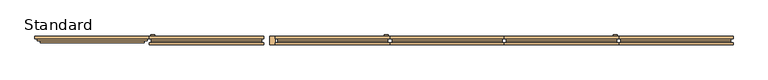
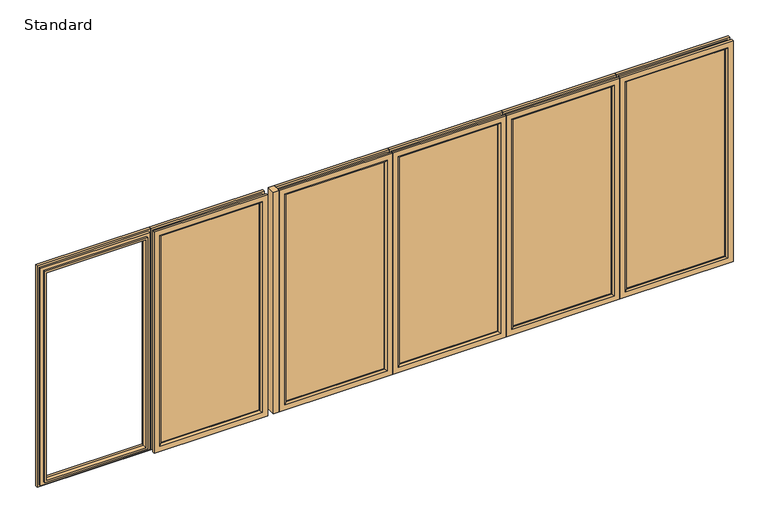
"""IFC4 building model written with IfcOpenShell, lengths in millimetres: door geometry, SMARTS_Visofold1000 : Standard."""

from ifc_helpers import new_model, si_unit, point, frame, frame_2d, origin, origin_with_axes, place, context, project, spatial, polyline, circle_curve, ellipse_curve, trimmed, segment, composite_curve, outline, extrude, faceted_brep, source, transform, mapped, element, save
from ifc_brep_helpers import plane_surface, cylinder_surface, advanced_brep


def standard_0c698cfe(model_context):
    return source(origin(), model_context, "Body", "SolidModel", [
        extrude(outline(composite_curve([segment(polyline([(1228.0996413, 4.0), (1040.0996413, 4.0)]), True, "CONTINUOUS"), segment(trimmed(circle_curve(frame_2d((1040.0996413, 20.0)), 16.0), [point((1040.0996413, 4.0))], [point((1040.0996413, 36.0))], False, "CARTESIAN"), True, "CONTINUOUS"), segment(polyline([(1040.0996413, 36.0), (1228.0996413, 36.0)]), True, "CONTINUOUS"), segment(trimmed(circle_curve(frame_2d((1228.0996413, 20.0)), 16.0), [point((1228.0996413, 36.0))], [point((1228.0996413, 4.0))], False, "CARTESIAN"), True, "CONTINUOUS")], self_intersect=False)), frame((0.0, 75.0, 0.0), z_axis=(0.0, 1.0, 0.0), x_axis=(0.0, 0.0, 1.0)), (0.0, 0.0, 1.0), 10.0),
        extrude(outline(polyline([(45.0, 5.0), (1955.0, 5.0), (1955.0, -875.0), (45.0, -875.0), (45.0, 5.0)]), holes=[polyline([(1939.5, -10.5), (60.5, -10.5), (60.5, -859.5), (1939.5, -859.5), (1939.5, -10.5)])]), frame((0.0, 17.4, 0.0), z_axis=(0.0, 1.0, 0.0), x_axis=(0.0, 0.0, 1.0)), (0.0, 0.0, 1.0), 35.0),
        faceted_brep([(50.0, 74.4, 0.0), (50.0, 74.4, 2000.0), (50.0, 52.4, 2000.0), (50.0, 52.4, 0.0), (-10.5, 52.4, 60.5), (-10.5, 52.4, 1939.5), (-10.5, 74.4, 1939.5), (-10.5, 74.4, 60.5), (-920.0, 74.4, 2000.0), (-920.0, 52.4, 2000.0), (-859.5, 52.4, 1939.5), (-859.5, 74.4, 1939.5), (-920.0, 74.4, 0.0), (-920.0, 52.4, 0.0), (-859.5, 52.4, 60.5), (-859.5, 74.4, 60.5), (32.1308519, 34.8, 17.8691481), (32.1308519, 34.8, 1982.1308519), (-902.1308519, 34.8, 1982.1308519), (-902.1308519, 34.8, 17.8691481), (5.0, 34.8, 1955.0), (5.0, 34.8, 45.0), (-875.0, 34.8, 45.0), (-875.0, 34.8, 1955.0), (32.1308519, 52.4, 17.8691481), (32.1308519, 52.4, 1982.1308519), (5.0, 52.4, 1955.0), (5.0, 52.4, 45.0), (-902.1308519, 52.4, 1982.1308519), (-875.0, 52.4, 1955.0), (-902.1308519, 52.4, 17.8691481), (-875.0, 52.4, 45.0)], [[[0, 1, 2, 3]], [[4, 5, 6, 7]], [[1, 8, 9, 2]], [[5, 10, 11, 6]], [[8, 12, 13, 9]], [[10, 14, 15, 11]], [[12, 0, 3, 13]], [[1, 0, 12, 8], [7, 6, 11, 15]], [[14, 4, 7, 15]], [[16, 17, 18, 19], [20, 21, 22, 23]], [[24, 25, 17, 16]], [[21, 20, 26, 27]], [[25, 28, 18, 17]], [[20, 23, 29, 26]], [[28, 30, 19, 18]], [[23, 22, 31, 29]], [[30, 24, 16, 19]], [[3, 2, 9, 13], [25, 24, 30, 28]], [[27, 26, 29, 31], [5, 4, 14, 10]], [[22, 21, 27, 31]]]),
        advanced_brep(
        [(-10.5, 13.3, 60.5), (-10.5, 13.3, 1939.5), (-10.5, 17.4, 1939.5), (-10.5, 17.4, 60.5), (50.0, 17.4, 0.0), (50.0, 17.4, 2000.0), (50.0, 0.0, 2000.0), (50.0, 0.0, 0.0), (-859.5, 13.3, 1939.5), (-859.5, 17.4, 1939.5), (-920.0, 17.4, 2000.0), (-920.0, 0.0, 2000.0), (-859.5, 13.3, 60.5), (-859.5, 17.4, 60.5), (-920.0, 17.4, 0.0), (-920.0, 0.0, 0.0), (2.8, 0.0, 1952.8), (2.8, 0.0, 47.2), (-872.8, 0.0, 47.2), (-872.8, 0.0, 1952.8), (32.1308519, 34.8, 17.8691481), (32.1308519, 34.8, 1982.1308519), (32.1308519, 17.4, 1982.1308519), (32.1308519, 17.4, 17.8691481), (-902.1308519, 34.8, 1982.1308519), (-902.1308519, 17.4, 1982.1308519), (-902.1308519, 34.8, 17.8691481), (-902.1308519, 17.4, 17.8691481), (5.0, 17.4, 45.0), (5.0, 17.4, 1955.0), (5.0, 34.8, 1955.0), (5.0, 34.8, 45.0), (-875.0, 17.4, 1955.0), (-875.0, 34.8, 1955.0), (-875.0, 17.4, 45.0), (-875.0, 34.8, 45.0)],
        [
            (0, 1),
            (1, 2),
            (2, 3),
            (3, 0),
            (4, 5),
            (5, 6),
            (6, 7),
            (7, 4),
            (1, 8),
            (8, 9),
            (9, 2),
            (5, 10),
            (10, 11),
            (11, 6),
            (8, 12),
            (12, 13),
            (13, 9),
            (10, 14),
            (14, 15),
            (15, 11),
            (12, 0),
            (3, 13),
            (15, 7),
            (16, 17),
            (17, 18),
            (18, 19),
            (19, 16),
            (14, 4),
            (16, 1, ellipse_curve(frame((2.8, 13.3, 1952.8), z_axis=(0.7071067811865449, 0.0, -0.70710678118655), x_axis=(-0.7071067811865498, 0.0, -0.7071067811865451)), 18.8090404, 13.3)),
            (0, 17, ellipse_curve(frame((2.8, 13.3, 47.2), z_axis=(0.70710678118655, 0.0, 0.7071067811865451), x_axis=(0.7071067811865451, 0.0, -0.7071067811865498)), 18.8090404, 13.3)),
            (19, 8, ellipse_curve(frame((-872.8, 13.3, 1952.8), z_axis=(0.7071067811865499, 0.0, 0.707106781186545), x_axis=(0.7071067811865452, 0.0, -0.7071067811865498)), 18.8090404, 13.3)),
            (18, 12, ellipse_curve(frame((-872.8, 13.3, 47.2), z_axis=(-0.7071067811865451, 0.0, 0.7071067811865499), x_axis=(0.7071067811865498, 0.0, 0.7071067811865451)), 18.8090404, 13.3)),
            (20, 21),
            (21, 22),
            (22, 23),
            (23, 20),
            (21, 24),
            (24, 25),
            (25, 22),
            (24, 26),
            (26, 27),
            (27, 25),
            (27, 23),
            (26, 20),
            (28, 29),
            (29, 30),
            (30, 31),
            (31, 28),
            (29, 32),
            (32, 33),
            (33, 30),
            (32, 34),
            (34, 35),
            (35, 33),
            (34, 28),
            (31, 35),
        ],
        [
            plane_surface(frame((-10.5, 17.4, 60.5), z_axis=(-1.0, 0.0, 0.0), x_axis=(0.0, 0.0, 1.0))),
            plane_surface(frame((50.0, 0.0, 0.0), z_axis=(1.0, 0.0, 0.0), x_axis=(0.0, 0.0, 1.0))),
            plane_surface(frame((-10.5, 17.4, 1939.5), z_axis=(0.0, 0.0, -1.0), x_axis=(-1.0, 0.0, 0.0))),
            plane_surface(frame((50.0, 0.0, 2000.0), z_axis=(0.0, 0.0, 1.0), x_axis=(-1.0, 0.0, 0.0))),
            plane_surface(frame((-859.5, 17.4, 1939.5), z_axis=(1.0, 0.0, 0.0), x_axis=(0.0, 0.0, -1.0))),
            plane_surface(frame((-920.0, 0.0, 2000.0), z_axis=(-1.0, 0.0, 0.0), x_axis=(0.0, 0.0, -1.0))),
            plane_surface(frame((-859.5, 17.4, 60.5), z_axis=(0.0, 0.0, 1.0), x_axis=(1.0, 0.0, 0.0))),
            plane_surface(frame((-872.8, 0.0, 47.2), z_axis=(0.0, -1.0, 0.0), x_axis=(1.0, 0.0, 0.0))),
            plane_surface(frame((-920.0, 0.0, 0.0), z_axis=(0.0, 0.0, -1.0), x_axis=(1.0, 0.0, 0.0))),
            cylinder_surface(frame((2.8, 13.3, 0.0), z_axis=(0.0, 0.0, -1.0), x_axis=(0.0, 1.0, 0.0)), 13.3),
            cylinder_surface(frame((50.0, 13.3, 1952.8), z_axis=(1.0, 0.0, 0.0), x_axis=(0.0, 1.0, 0.0)), 13.3),
            cylinder_surface(frame((-872.8, 13.3, 2000.0), z_axis=(0.0, 0.0, 1.0), x_axis=(0.0, 1.0, 0.0)), 13.3),
            cylinder_surface(frame((-920.0, 13.3, 47.2), z_axis=(-1.0, 0.0, 0.0), x_axis=(0.0, 1.0, 0.0)), 13.3),
            plane_surface(frame((32.1308519, 17.4, 17.8691481), z_axis=(1.0, 0.0, 0.0), x_axis=(0.0, 0.0, 1.0))),
            plane_surface(frame((32.1308519, 17.4, 1982.1308519), z_axis=(0.0, 0.0, 1.0), x_axis=(-1.0, 0.0, 0.0))),
            plane_surface(frame((-902.1308519, 17.4, 1982.1308519), z_axis=(-1.0, 0.0, 0.0), x_axis=(0.0, 0.0, -1.0))),
            plane_surface(frame((-920.0, 17.4, 0.0), z_axis=(0.0, 1.0, 0.0), x_axis=(1.0, 0.0, 0.0))),
            plane_surface(frame((-902.1308519, 17.4, 17.8691481), z_axis=(0.0, 0.0, -1.0), x_axis=(1.0, 0.0, 0.0))),
            plane_surface(frame((5.0, 34.8, 45.0), z_axis=(-1.0, 0.0, 0.0), x_axis=(0.0, 0.0, 1.0))),
            plane_surface(frame((5.0, 34.8, 1955.0), z_axis=(0.0, 0.0, -1.0), x_axis=(-1.0, 0.0, 0.0))),
            plane_surface(frame((-875.0, 34.8, 1955.0), z_axis=(1.0, 0.0, 0.0), x_axis=(0.0, 0.0, -1.0))),
            plane_surface(frame((-875.0, 34.8, 45.0), z_axis=(0.0, 0.0, 1.0), x_axis=(1.0, 0.0, 0.0))),
            plane_surface(frame((-875.0, 17.4, 45.0), z_axis=(0.0, 1.0, 0.0), x_axis=(1.0, 0.0, 0.0))),
            plane_surface(frame((-902.1308519, 34.8, 17.8691481), z_axis=(0.0, 1.0, 0.0), x_axis=(1.0, 0.0, 0.0))),
        ],
        [
            (0, [[1, 2, 3, 4]]),
            (1, [[5, 6, 7, 8]]),
            (2, [[9, 10, 11, -2]]),
            (3, [[12, 13, 14, -6]]),
            (4, [[15, 16, 17, -10]]),
            (5, [[18, 19, 20, -13]]),
            (6, [[21, -4, 22, -16]]),
            (7, [[-7, -14, -20, 23], [24, 25, 26, 27]]),
            (8, [[28, -8, -23, -19]]),
            (9, [[-24, 29, -1, 30]]),
            (10, [[-27, 31, -9, -29]]),
            (11, [[-26, 32, -15, -31]]),
            (12, [[-25, -30, -21, -32]]),
            (13, [[33, 34, 35, 36]]),
            (14, [[37, 38, 39, -34]]),
            (15, [[40, 41, 42, -38]]),
            (16, [[-5, -28, -18, -12], [-35, -39, -42, 43]]),
            (17, [[44, -36, -43, -41]]),
            (18, [[45, 46, 47, 48]]),
            (19, [[49, 50, 51, -46]]),
            (20, [[52, 53, 54, -50]]),
            (21, [[55, -48, 56, -53]]),
            (22, [[-45, -55, -52, -49], [-3, -11, -17, -22]]),
            (23, [[-33, -44, -40, -37], [-47, -51, -54, -56]]),
        ],
    ),
        extrude(outline(polyline([(-10.5, 50.1484783), (-10.5, 21.4), (-859.5, 21.4), (-859.5, 50.1484783), (-10.5, 50.1484783)])), frame((0.0, 0.0, 60.5), z_axis=(0.0, 0.0, 1.0), x_axis=(1.0, 0.0, 0.0)), (0.0, 0.0, 1.0), 1879.0),
        extrude(outline(composite_curve([segment(polyline([(1228.0996413, 1944.0), (1040.0996413, 1944.0)]), True, "CONTINUOUS"), segment(trimmed(circle_curve(frame_2d((1040.0996413, 1960.0)), 16.0), [point((1040.0996413, 1944.0))], [point((1040.0996413, 1976.0))], False, "CARTESIAN"), True, "CONTINUOUS"), segment(polyline([(1040.0996413, 1976.0), (1228.0996413, 1976.0)]), True, "CONTINUOUS"), segment(trimmed(circle_curve(frame_2d((1228.0996413, 1960.0)), 16.0), [point((1228.0996413, 1976.0))], [point((1228.0996413, 1944.0))], False, "CARTESIAN"), True, "CONTINUOUS")], self_intersect=False)), frame((0.0, 75.0, 0.0), z_axis=(0.0, 1.0, 0.0), x_axis=(0.0, 0.0, 1.0)), (0.0, 0.0, 1.0), 10.0),
        extrude(outline(polyline([(45.0, 1945.0), (1955.0, 1945.0), (1955.0, 1065.0), (45.0, 1065.0), (45.0, 1945.0)]), holes=[polyline([(1939.5, 1929.5), (60.5, 1929.5), (60.5, 1080.5), (1939.5, 1080.5), (1939.5, 1929.5)])]), frame((0.0, 17.4, 0.0), z_axis=(0.0, 1.0, 0.0), x_axis=(0.0, 0.0, 1.0)), (0.0, 0.0, 1.0), 35.0),
        faceted_brep([(1990.0, 74.4, 0.0), (1990.0, 74.4, 2000.0), (1990.0, 52.4, 2000.0), (1990.0, 52.4, 0.0), (1929.5, 52.4, 60.5), (1929.5, 52.4, 1939.5), (1929.5, 74.4, 1939.5), (1929.5, 74.4, 60.5), (1020.0, 74.4, 2000.0), (1020.0, 52.4, 2000.0), (1080.5, 52.4, 1939.5), (1080.5, 74.4, 1939.5), (1020.0, 74.4, 0.0), (1020.0, 52.4, 0.0), (1080.5, 52.4, 60.5), (1080.5, 74.4, 60.5), (1972.1308519, 34.8, 17.8691481), (1972.1308519, 34.8, 1982.1308519), (1037.8691481, 34.8, 1982.1308519), (1037.8691481, 34.8, 17.8691481), (1945.0, 34.8, 1955.0), (1945.0, 34.8, 45.0), (1065.0, 34.8, 45.0), (1065.0, 34.8, 1955.0), (1972.1308519, 52.4, 17.8691481), (1972.1308519, 52.4, 1982.1308519), (1945.0, 52.4, 1955.0), (1945.0, 52.4, 45.0), (1037.8691481, 52.4, 1982.1308519), (1065.0, 52.4, 1955.0), (1037.8691481, 52.4, 17.8691481), (1065.0, 52.4, 45.0)], [[[0, 1, 2, 3]], [[4, 5, 6, 7]], [[1, 8, 9, 2]], [[5, 10, 11, 6]], [[8, 12, 13, 9]], [[10, 14, 15, 11]], [[12, 0, 3, 13]], [[1, 0, 12, 8], [7, 6, 11, 15]], [[14, 4, 7, 15]], [[16, 17, 18, 19], [20, 21, 22, 23]], [[24, 25, 17, 16]], [[21, 20, 26, 27]], [[25, 28, 18, 17]], [[20, 23, 29, 26]], [[28, 30, 19, 18]], [[23, 22, 31, 29]], [[30, 24, 16, 19]], [[3, 2, 9, 13], [25, 24, 30, 28]], [[27, 26, 29, 31], [5, 4, 14, 10]], [[22, 21, 27, 31]]]),
        advanced_brep(
        [(1929.5, 13.3, 60.5), (1929.5, 13.3, 1939.5), (1929.5, 17.4, 1939.5), (1929.5, 17.4, 60.5), (1990.0, 17.4, 0.0), (1990.0, 17.4, 2000.0), (1990.0, 0.0, 2000.0), (1990.0, 0.0, 0.0), (1080.5, 13.3, 1939.5), (1080.5, 17.4, 1939.5), (1020.0, 17.4, 2000.0), (1020.0, 0.0, 2000.0), (1080.5, 13.3, 60.5), (1080.5, 17.4, 60.5), (1020.0, 17.4, 0.0), (1020.0, 0.0, 0.0), (1942.8, 0.0, 1952.8), (1942.8, 0.0, 47.2), (1067.2, 0.0, 47.2), (1067.2, 0.0, 1952.8), (1972.1308519, 34.8, 17.8691481), (1972.1308519, 34.8, 1982.1308519), (1972.1308519, 17.4, 1982.1308519), (1972.1308519, 17.4, 17.8691481), (1037.8691481, 34.8, 1982.1308519), (1037.8691481, 17.4, 1982.1308519), (1037.8691481, 34.8, 17.8691481), (1037.8691481, 17.4, 17.8691481), (1945.0, 17.4, 45.0), (1945.0, 17.4, 1955.0), (1945.0, 34.8, 1955.0), (1945.0, 34.8, 45.0), (1065.0, 17.4, 1955.0), (1065.0, 34.8, 1955.0), (1065.0, 17.4, 45.0), (1065.0, 34.8, 45.0)],
        [
            (0, 1),
            (1, 2),
            (2, 3),
            (3, 0),
            (4, 5),
            (5, 6),
            (6, 7),
            (7, 4),
            (1, 8),
            (8, 9),
            (9, 2),
            (5, 10),
            (10, 11),
            (11, 6),
            (8, 12),
            (12, 13),
            (13, 9),
            (10, 14),
            (14, 15),
            (15, 11),
            (12, 0),
            (3, 13),
            (15, 7),
            (16, 17),
            (17, 18),
            (18, 19),
            (19, 16),
            (14, 4),
            (16, 1, ellipse_curve(frame((1942.8, 13.3, 1952.8), z_axis=(0.7071067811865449, 0.0, -0.70710678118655), x_axis=(-0.7071067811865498, 0.0, -0.7071067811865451)), 18.8090404, 13.3)),
            (0, 17, ellipse_curve(frame((1942.8, 13.3, 47.2), z_axis=(0.70710678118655, 0.0, 0.7071067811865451), x_axis=(0.7071067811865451, 0.0, -0.7071067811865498)), 18.8090404, 13.3)),
            (19, 8, ellipse_curve(frame((1067.2, 13.3, 1952.8), z_axis=(0.7071067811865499, 0.0, 0.707106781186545), x_axis=(0.7071067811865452, 0.0, -0.7071067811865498)), 18.8090404, 13.3)),
            (18, 12, ellipse_curve(frame((1067.2, 13.3, 47.2), z_axis=(-0.7071067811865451, 0.0, 0.7071067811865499), x_axis=(0.7071067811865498, 0.0, 0.7071067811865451)), 18.8090404, 13.3)),
            (20, 21),
            (21, 22),
            (22, 23),
            (23, 20),
            (21, 24),
            (24, 25),
            (25, 22),
            (24, 26),
            (26, 27),
            (27, 25),
            (27, 23),
            (26, 20),
            (28, 29),
            (29, 30),
            (30, 31),
            (31, 28),
            (29, 32),
            (32, 33),
            (33, 30),
            (32, 34),
            (34, 35),
            (35, 33),
            (34, 28),
            (31, 35),
        ],
        [
            plane_surface(frame((1929.5, 17.4, 60.5), z_axis=(-1.0, 0.0, 0.0), x_axis=(0.0, 0.0, 1.0))),
            plane_surface(frame((1990.0, 0.0, 0.0), z_axis=(1.0, 0.0, 0.0), x_axis=(0.0, 0.0, 1.0))),
            plane_surface(frame((1929.5, 17.4, 1939.5), z_axis=(0.0, 0.0, -1.0), x_axis=(-1.0, 0.0, 0.0))),
            plane_surface(frame((1990.0, 0.0, 2000.0), z_axis=(0.0, 0.0, 1.0), x_axis=(-1.0, 0.0, 0.0))),
            plane_surface(frame((1080.5, 17.4, 1939.5), z_axis=(1.0, 0.0, 0.0), x_axis=(0.0, 0.0, -1.0))),
            plane_surface(frame((1020.0, 0.0, 2000.0), z_axis=(-1.0, 0.0, 0.0), x_axis=(0.0, 0.0, -1.0))),
            plane_surface(frame((1080.5, 17.4, 60.5), z_axis=(0.0, 0.0, 1.0), x_axis=(1.0, 0.0, 0.0))),
            plane_surface(frame((1067.2, 0.0, 47.2), z_axis=(0.0, -1.0, 0.0), x_axis=(1.0, 0.0, 0.0))),
            plane_surface(frame((1020.0, 0.0, 0.0), z_axis=(0.0, 0.0, -1.0), x_axis=(1.0, 0.0, 0.0))),
            cylinder_surface(frame((1942.8, 13.3, 0.0), z_axis=(0.0, 0.0, -1.0), x_axis=(0.0, 1.0, 0.0)), 13.3),
            cylinder_surface(frame((1990.0, 13.3, 1952.8), z_axis=(1.0, 0.0, 0.0), x_axis=(0.0, 1.0, 0.0)), 13.3),
            cylinder_surface(frame((1067.2, 13.3, 2000.0), z_axis=(0.0, 0.0, 1.0), x_axis=(0.0, 1.0, 0.0)), 13.3),
            cylinder_surface(frame((1020.0, 13.3, 47.2), z_axis=(-1.0, 0.0, 0.0), x_axis=(0.0, 1.0, 0.0)), 13.3),
            plane_surface(frame((1972.1308519, 17.4, 17.8691481), z_axis=(1.0, 0.0, 0.0), x_axis=(0.0, 0.0, 1.0))),
            plane_surface(frame((1972.1308519, 17.4, 1982.1308519), z_axis=(0.0, 0.0, 1.0), x_axis=(-1.0, 0.0, 0.0))),
            plane_surface(frame((1037.8691481, 17.4, 1982.1308519), z_axis=(-1.0, 0.0, 0.0), x_axis=(0.0, 0.0, -1.0))),
            plane_surface(frame((1020.0, 17.4, 0.0), z_axis=(0.0, 1.0, 0.0), x_axis=(1.0, 0.0, 0.0))),
            plane_surface(frame((1037.8691481, 17.4, 17.8691481), z_axis=(0.0, 0.0, -1.0), x_axis=(1.0, 0.0, 0.0))),
            plane_surface(frame((1945.0, 34.8, 45.0), z_axis=(-1.0, 0.0, 0.0), x_axis=(0.0, 0.0, 1.0))),
            plane_surface(frame((1945.0, 34.8, 1955.0), z_axis=(0.0, 0.0, -1.0), x_axis=(-1.0, 0.0, 0.0))),
            plane_surface(frame((1065.0, 34.8, 1955.0), z_axis=(1.0, 0.0, 0.0), x_axis=(0.0, 0.0, -1.0))),
            plane_surface(frame((1065.0, 34.8, 45.0), z_axis=(0.0, 0.0, 1.0), x_axis=(1.0, 0.0, 0.0))),
            plane_surface(frame((1065.0, 17.4, 45.0), z_axis=(0.0, 1.0, 0.0), x_axis=(1.0, 0.0, 0.0))),
            plane_surface(frame((1037.8691481, 34.8, 17.8691481), z_axis=(0.0, 1.0, 0.0), x_axis=(1.0, 0.0, 0.0))),
        ],
        [
            (0, [[1, 2, 3, 4]]),
            (1, [[5, 6, 7, 8]]),
            (2, [[9, 10, 11, -2]]),
            (3, [[12, 13, 14, -6]]),
            (4, [[15, 16, 17, -10]]),
            (5, [[18, 19, 20, -13]]),
            (6, [[21, -4, 22, -16]]),
            (7, [[-7, -14, -20, 23], [24, 25, 26, 27]]),
            (8, [[28, -8, -23, -19]]),
            (9, [[-24, 29, -1, 30]]),
            (10, [[-27, 31, -9, -29]]),
            (11, [[-26, 32, -15, -31]]),
            (12, [[-25, -30, -21, -32]]),
            (13, [[33, 34, 35, 36]]),
            (14, [[37, 38, 39, -34]]),
            (15, [[40, 41, 42, -38]]),
            (16, [[-5, -28, -18, -12], [-35, -39, -42, 43]]),
            (17, [[44, -36, -43, -41]]),
            (18, [[45, 46, 47, 48]]),
            (19, [[49, 50, 51, -46]]),
            (20, [[52, 53, 54, -50]]),
            (21, [[55, -48, 56, -53]]),
            (22, [[-45, -55, -52, -49], [-3, -11, -17, -22]]),
            (23, [[-33, -44, -40, -37], [-47, -51, -54, -56]]),
        ],
    ),
        extrude(outline(polyline([(1929.5, 50.1484783), (1929.5, 21.4), (1080.5, 21.4), (1080.5, 50.1484783), (1929.5, 50.1484783)])), frame((0.0, 0.0, 60.5), z_axis=(0.0, 0.0, 1.0), x_axis=(1.0, 0.0, 0.0)), (0.0, 0.0, 1.0), 1879.0),
        extrude(outline(polyline([(45.0, 95.0), (45.0, 975.0), (1955.0, 975.0), (1955.0, 95.0), (45.0, 95.0)]), holes=[polyline([(1939.5, 110.5), (1939.5, 959.5), (60.5, 959.5), (60.5, 110.5), (1939.5, 110.5)])]), frame((0.0, 17.4, 0.0), z_axis=(0.0, 1.0, 0.0), x_axis=(0.0, 0.0, 1.0)), (0.0, 0.0, 1.0), 35.0),
        faceted_brep([(50.0, 74.4, 0.0), (50.0, 52.4, 0.0), (50.0, 52.4, 2000.0), (50.0, 74.4, 2000.0), (110.5, 52.4, 60.5), (110.5, 74.4, 60.5), (110.5, 74.4, 1939.5), (110.5, 52.4, 1939.5), (1020.0, 52.4, 2000.0), (1020.0, 74.4, 2000.0), (959.5, 74.4, 1939.5), (959.5, 52.4, 1939.5), (1020.0, 52.4, 0.0), (1020.0, 74.4, 0.0), (959.5, 74.4, 60.5), (959.5, 52.4, 60.5), (67.8691481, 34.8, 17.8691481), (1002.1308519, 34.8, 17.8691481), (1002.1308519, 34.8, 1982.1308519), (67.8691481, 34.8, 1982.1308519), (95.0, 34.8, 1955.0), (975.0, 34.8, 1955.0), (975.0, 34.8, 45.0), (95.0, 34.8, 45.0), (67.8691481, 52.4, 17.8691481), (67.8691481, 52.4, 1982.1308519), (95.0, 52.4, 45.0), (95.0, 52.4, 1955.0), (1002.1308519, 52.4, 1982.1308519), (975.0, 52.4, 1955.0), (1002.1308519, 52.4, 17.8691481), (975.0, 52.4, 45.0)], [[[0, 1, 2, 3]], [[4, 5, 6, 7]], [[3, 2, 8, 9]], [[7, 6, 10, 11]], [[9, 8, 12, 13]], [[11, 10, 14, 15]], [[13, 12, 1, 0]], [[3, 9, 13, 0], [5, 14, 10, 6]], [[15, 14, 5, 4]], [[16, 17, 18, 19], [20, 21, 22, 23]], [[24, 16, 19, 25]], [[23, 26, 27, 20]], [[25, 19, 18, 28]], [[20, 27, 29, 21]], [[28, 18, 17, 30]], [[21, 29, 31, 22]], [[30, 17, 16, 24]], [[1, 12, 8, 2], [25, 28, 30, 24]], [[26, 31, 29, 27], [7, 11, 15, 4]], [[22, 31, 26, 23]]]),
        advanced_brep(
        [(110.5, 13.3, 60.5), (110.5, 17.4, 60.5), (110.5, 17.4, 1939.5), (110.5, 13.3, 1939.5), (50.0, 17.4, 0.0), (50.0, 0.0, 0.0), (50.0, 0.0, 2000.0), (50.0, 17.4, 2000.0), (959.5, 17.4, 1939.5), (959.5, 13.3, 1939.5), (1020.0, 0.0, 2000.0), (1020.0, 17.4, 2000.0), (959.5, 17.4, 60.5), (959.5, 13.3, 60.5), (1020.0, 0.0, 0.0), (1020.0, 17.4, 0.0), (97.2, 0.0, 1952.8), (972.8, 0.0, 1952.8), (972.8, 0.0, 47.2), (97.2, 0.0, 47.2), (67.8691481, 34.8, 17.8691481), (67.8691481, 17.4, 17.8691481), (67.8691481, 17.4, 1982.1308519), (67.8691481, 34.8, 1982.1308519), (1002.1308519, 17.4, 1982.1308519), (1002.1308519, 34.8, 1982.1308519), (1002.1308519, 17.4, 17.8691481), (1002.1308519, 34.8, 17.8691481), (95.0, 17.4, 45.0), (95.0, 34.8, 45.0), (95.0, 34.8, 1955.0), (95.0, 17.4, 1955.0), (975.0, 34.8, 1955.0), (975.0, 17.4, 1955.0), (975.0, 34.8, 45.0), (975.0, 17.4, 45.0)],
        [
            (0, 1),
            (1, 2),
            (2, 3),
            (3, 0),
            (4, 5),
            (5, 6),
            (6, 7),
            (7, 4),
            (2, 8),
            (8, 9),
            (9, 3),
            (6, 10),
            (10, 11),
            (11, 7),
            (8, 12),
            (12, 13),
            (13, 9),
            (10, 14),
            (14, 15),
            (15, 11),
            (12, 1),
            (0, 13),
            (5, 14),
            (16, 17),
            (17, 18),
            (18, 19),
            (19, 16),
            (4, 15),
            (19, 0, ellipse_curve(frame((97.2, 13.3, 47.2), z_axis=(-0.70710678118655, 0.0, 0.7071067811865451), x_axis=(-0.7071067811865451, 0.0, -0.7071067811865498)), 18.8090404, 13.3)),
            (3, 16, ellipse_curve(frame((97.2, 13.3, 1952.8), z_axis=(-0.7071067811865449, 0.0, -0.70710678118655), x_axis=(0.7071067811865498, 0.0, -0.7071067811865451)), 18.8090404, 13.3)),
            (9, 17, ellipse_curve(frame((972.8, 13.3, 1952.8), z_axis=(-0.7071067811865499, 0.0, 0.707106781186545), x_axis=(-0.7071067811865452, 0.0, -0.7071067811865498)), 18.8090404, 13.3)),
            (13, 18, ellipse_curve(frame((972.8, 13.3, 47.2), z_axis=(0.7071067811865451, 0.0, 0.7071067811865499), x_axis=(-0.7071067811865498, 0.0, 0.7071067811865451)), 18.8090404, 13.3)),
            (20, 21),
            (21, 22),
            (22, 23),
            (23, 20),
            (22, 24),
            (24, 25),
            (25, 23),
            (24, 26),
            (26, 27),
            (27, 25),
            (21, 26),
            (20, 27),
            (28, 29),
            (29, 30),
            (30, 31),
            (31, 28),
            (30, 32),
            (32, 33),
            (33, 31),
            (32, 34),
            (34, 35),
            (35, 33),
            (34, 29),
            (28, 35),
        ],
        [
            plane_surface(frame((110.5, 17.4, 60.5), z_axis=(1.0, 0.0, 0.0), x_axis=(0.0, 0.0, 1.0))),
            plane_surface(frame((50.0, 0.0, 0.0), z_axis=(-1.0, 0.0, 0.0), x_axis=(0.0, 0.0, 1.0))),
            plane_surface(frame((110.5, 17.4, 1939.5), z_axis=(0.0, 0.0, -1.0), x_axis=(1.0, 0.0, 0.0))),
            plane_surface(frame((50.0, 0.0, 2000.0), z_axis=(0.0, 0.0, 1.0), x_axis=(1.0, 0.0, 0.0))),
            plane_surface(frame((959.5, 17.4, 1939.5), z_axis=(-1.0, 0.0, 0.0), x_axis=(0.0, 0.0, -1.0))),
            plane_surface(frame((1020.0, 0.0, 2000.0), z_axis=(1.0, 0.0, 0.0), x_axis=(0.0, 0.0, -1.0))),
            plane_surface(frame((959.5, 17.4, 60.5), z_axis=(0.0, 0.0, 1.0), x_axis=(-1.0, 0.0, 0.0))),
            plane_surface(frame((972.8, 0.0, 47.2), z_axis=(0.0, -1.0, 0.0), x_axis=(-1.0, 0.0, 0.0))),
            plane_surface(frame((1020.0, 0.0, 0.0), z_axis=(0.0, 0.0, -1.0), x_axis=(-1.0, 0.0, 0.0))),
            cylinder_surface(frame((97.2, 13.3, 0.0), z_axis=(0.0, 0.0, -1.0), x_axis=(0.0, 1.0, 0.0)), 13.3),
            cylinder_surface(frame((50.0, 13.3, 1952.8), z_axis=(-1.0, 0.0, 0.0), x_axis=(0.0, 1.0, 0.0)), 13.3),
            cylinder_surface(frame((972.8, 13.3, 2000.0), z_axis=(0.0, 0.0, 1.0), x_axis=(0.0, 1.0, 0.0)), 13.3),
            cylinder_surface(frame((1020.0, 13.3, 47.2), z_axis=(1.0, 0.0, 0.0), x_axis=(0.0, 1.0, 0.0)), 13.3),
            plane_surface(frame((67.8691481, 17.4, 17.8691481), z_axis=(-1.0, 0.0, 0.0), x_axis=(0.0, 0.0, 1.0))),
            plane_surface(frame((67.8691481, 17.4, 1982.1308519), z_axis=(0.0, 0.0, 1.0), x_axis=(1.0, 0.0, 0.0))),
            plane_surface(frame((1002.1308519, 17.4, 1982.1308519), z_axis=(1.0, 0.0, 0.0), x_axis=(0.0, 0.0, -1.0))),
            plane_surface(frame((1020.0, 17.4, 0.0), z_axis=(0.0, 1.0, 0.0), x_axis=(-1.0, 0.0, 0.0))),
            plane_surface(frame((1002.1308519, 17.4, 17.8691481), z_axis=(0.0, 0.0, -1.0), x_axis=(-1.0, 0.0, 0.0))),
            plane_surface(frame((95.0, 34.8, 45.0), z_axis=(1.0, 0.0, 0.0), x_axis=(0.0, 0.0, 1.0))),
            plane_surface(frame((95.0, 34.8, 1955.0), z_axis=(0.0, 0.0, -1.0), x_axis=(1.0, 0.0, 0.0))),
            plane_surface(frame((975.0, 34.8, 1955.0), z_axis=(-1.0, 0.0, 0.0), x_axis=(0.0, 0.0, -1.0))),
            plane_surface(frame((975.0, 34.8, 45.0), z_axis=(0.0, 0.0, 1.0), x_axis=(-1.0, 0.0, 0.0))),
            plane_surface(frame((975.0, 17.4, 45.0), z_axis=(0.0, 1.0, 0.0), x_axis=(-1.0, 0.0, 0.0))),
            plane_surface(frame((1002.1308519, 34.8, 17.8691481), z_axis=(0.0, 1.0, 0.0), x_axis=(-1.0, 0.0, 0.0))),
        ],
        [
            (0, [[1, 2, 3, 4]]),
            (1, [[5, 6, 7, 8]]),
            (2, [[-3, 9, 10, 11]]),
            (3, [[-7, 12, 13, 14]]),
            (4, [[-10, 15, 16, 17]]),
            (5, [[-13, 18, 19, 20]]),
            (6, [[-16, 21, -1, 22]]),
            (7, [[23, -18, -12, -6], [24, 25, 26, 27]]),
            (8, [[-19, -23, -5, 28]]),
            (9, [[29, -4, 30, -27]]),
            (10, [[-30, -11, 31, -24]]),
            (11, [[-31, -17, 32, -25]]),
            (12, [[-32, -22, -29, -26]]),
            (13, [[33, 34, 35, 36]]),
            (14, [[-35, 37, 38, 39]]),
            (15, [[-38, 40, 41, 42]]),
            (16, [[-14, -20, -28, -8], [43, -40, -37, -34]]),
            (17, [[-41, -43, -33, 44]]),
            (18, [[45, 46, 47, 48]]),
            (19, [[-47, 49, 50, 51]]),
            (20, [[-50, 52, 53, 54]]),
            (21, [[-53, 55, -45, 56]]),
            (22, [[-51, -54, -56, -48], [-21, -15, -9, -2]]),
            (23, [[-39, -42, -44, -36], [-55, -52, -49, -46]]),
        ],
    ),
        extrude(outline(polyline([(110.5, 50.1484783), (959.5, 50.1484783), (959.5, 21.4), (110.5, 21.4), (110.5, 50.1484783)])), frame((0.0, 0.0, 60.5), z_axis=(0.0, 0.0, 1.0), x_axis=(1.0, 0.0, 0.0)), (0.0, 0.0, 1.0), 1879.0),
        extrude(outline(polyline([(45.0, 2035.0), (45.0, 2915.0), (1955.0, 2915.0), (1955.0, 2035.0), (45.0, 2035.0)]), holes=[polyline([(1939.5, 2050.5), (1939.5, 2899.5), (60.5, 2899.5), (60.5, 2050.5), (1939.5, 2050.5)])]), frame((0.0, 17.4, 0.0), z_axis=(0.0, 1.0, 0.0), x_axis=(0.0, 0.0, 1.0)), (0.0, 0.0, 1.0), 35.0),
        faceted_brep([(1990.0, 74.4, 0.0), (1990.0, 52.4, 0.0), (1990.0, 52.4, 2000.0), (1990.0, 74.4, 2000.0), (2050.5, 52.4, 60.5), (2050.5, 74.4, 60.5), (2050.5, 74.4, 1939.5), (2050.5, 52.4, 1939.5), (2960.0, 74.4, 0.0), (2960.0, 52.4, 0.0), (2960.0, 52.4, 2000.0), (2960.0, 74.4, 2000.0), (2899.5, 74.4, 1939.5), (2899.5, 52.4, 1939.5), (2899.5, 74.4, 60.5), (2899.5, 52.4, 60.5), (2007.8691481, 34.8, 17.8691481), (2942.1308519, 34.8, 17.8691481), (2942.1308519, 34.8, 1982.1308519), (2007.8691481, 34.8, 1982.1308519), (2035.0, 34.8, 1955.0), (2915.0, 34.8, 1955.0), (2915.0, 34.8, 45.0), (2035.0, 34.8, 45.0), (2007.8691481, 52.4, 17.8691481), (2007.8691481, 52.4, 1982.1308519), (2035.0, 52.4, 45.0), (2035.0, 52.4, 1955.0), (2942.1308519, 52.4, 1982.1308519), (2915.0, 52.4, 1955.0), (2942.1308519, 52.4, 17.8691481), (2915.0, 52.4, 45.0)], [[[0, 1, 2, 3]], [[4, 5, 6, 7]], [[8, 9, 1, 0]], [[3, 2, 10, 11]], [[7, 6, 12, 13]], [[11, 10, 9, 8]], [[13, 12, 14, 15]], [[3, 11, 8, 0], [5, 14, 12, 6]], [[15, 14, 5, 4]], [[16, 17, 18, 19], [20, 21, 22, 23]], [[24, 16, 19, 25]], [[23, 26, 27, 20]], [[25, 19, 18, 28]], [[20, 27, 29, 21]], [[28, 18, 17, 30]], [[21, 29, 31, 22]], [[30, 17, 16, 24]], [[1, 9, 10, 2], [25, 28, 30, 24]], [[26, 31, 29, 27], [7, 13, 15, 4]], [[22, 31, 26, 23]]]),
        advanced_brep(
        [(2050.5, 13.3, 60.5), (2050.5, 17.4, 60.5), (2050.5, 17.4, 1939.5), (2050.5, 13.3, 1939.5), (1990.0, 17.4, 0.0), (1990.0, 0.0, 0.0), (1990.0, 0.0, 2000.0), (1990.0, 17.4, 2000.0), (2899.5, 17.4, 1939.5), (2899.5, 13.3, 1939.5), (2960.0, 0.0, 2000.0), (2960.0, 17.4, 2000.0), (2899.5, 17.4, 60.5), (2899.5, 13.3, 60.5), (2960.0, 0.0, 0.0), (2960.0, 17.4, 0.0), (2037.2, 0.0, 1952.8), (2912.8, 0.0, 1952.8), (2912.8, 0.0, 47.2), (2037.2, 0.0, 47.2), (2007.8691481, 34.8, 17.8691481), (2007.8691481, 17.4, 17.8691481), (2007.8691481, 17.4, 1982.1308519), (2007.8691481, 34.8, 1982.1308519), (2942.1308519, 17.4, 1982.1308519), (2942.1308519, 34.8, 1982.1308519), (2942.1308519, 17.4, 17.8691481), (2942.1308519, 34.8, 17.8691481), (2035.0, 17.4, 45.0), (2035.0, 34.8, 45.0), (2035.0, 34.8, 1955.0), (2035.0, 17.4, 1955.0), (2915.0, 34.8, 1955.0), (2915.0, 17.4, 1955.0), (2915.0, 34.8, 45.0), (2915.0, 17.4, 45.0)],
        [
            (0, 1),
            (1, 2),
            (2, 3),
            (3, 0),
            (4, 5),
            (5, 6),
            (6, 7),
            (7, 4),
            (2, 8),
            (8, 9),
            (9, 3),
            (6, 10),
            (10, 11),
            (11, 7),
            (8, 12),
            (12, 13),
            (13, 9),
            (10, 14),
            (14, 15),
            (15, 11),
            (12, 1),
            (0, 13),
            (5, 14),
            (16, 17),
            (17, 18),
            (18, 19),
            (19, 16),
            (4, 15),
            (19, 0, ellipse_curve(frame((2037.2, 13.3, 47.2), z_axis=(-0.70710678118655, 0.0, 0.7071067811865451), x_axis=(-0.7071067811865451, 0.0, -0.7071067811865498)), 18.8090404, 13.3)),
            (3, 16, ellipse_curve(frame((2037.2, 13.3, 1952.8), z_axis=(-0.7071067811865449, 0.0, -0.70710678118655), x_axis=(0.7071067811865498, 0.0, -0.7071067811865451)), 18.8090404, 13.3)),
            (9, 17, ellipse_curve(frame((2912.8, 13.3, 1952.8), z_axis=(-0.7071067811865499, 0.0, 0.707106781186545), x_axis=(-0.7071067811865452, 0.0, -0.7071067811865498)), 18.8090404, 13.3)),
            (13, 18, ellipse_curve(frame((2912.8, 13.3, 47.2), z_axis=(0.7071067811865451, 0.0, 0.7071067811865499), x_axis=(-0.7071067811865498, 0.0, 0.7071067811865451)), 18.8090404, 13.3)),
            (20, 21),
            (21, 22),
            (22, 23),
            (23, 20),
            (22, 24),
            (24, 25),
            (25, 23),
            (24, 26),
            (26, 27),
            (27, 25),
            (21, 26),
            (20, 27),
            (28, 29),
            (29, 30),
            (30, 31),
            (31, 28),
            (30, 32),
            (32, 33),
            (33, 31),
            (32, 34),
            (34, 35),
            (35, 33),
            (34, 29),
            (28, 35),
        ],
        [
            plane_surface(frame((2050.5, 17.4, 60.5), z_axis=(1.0, 0.0, 0.0), x_axis=(0.0, 0.0, 1.0))),
            plane_surface(frame((1990.0, 0.0, 0.0), z_axis=(-1.0, 0.0, 0.0), x_axis=(0.0, 0.0, 1.0))),
            plane_surface(frame((2050.5, 17.4, 1939.5), z_axis=(0.0, 0.0, -1.0), x_axis=(1.0, 0.0, 0.0))),
            plane_surface(frame((1990.0, 0.0, 2000.0), z_axis=(0.0, 0.0, 1.0), x_axis=(1.0, 0.0, 0.0))),
            plane_surface(frame((2899.5, 17.4, 1939.5), z_axis=(-1.0, 0.0, 0.0), x_axis=(0.0, 0.0, -1.0))),
            plane_surface(frame((2960.0, 0.0, 2000.0), z_axis=(1.0, 0.0, 0.0), x_axis=(0.0, 0.0, -1.0))),
            plane_surface(frame((2899.5, 17.4, 60.5), z_axis=(0.0, 0.0, 1.0), x_axis=(-1.0, 0.0, 0.0))),
            plane_surface(frame((2912.8, 0.0, 47.2), z_axis=(0.0, -1.0, 0.0), x_axis=(-1.0, 0.0, 0.0))),
            plane_surface(frame((2960.0, 0.0, 0.0), z_axis=(0.0, 0.0, -1.0), x_axis=(-1.0, 0.0, 0.0))),
            cylinder_surface(frame((2037.2, 13.3, 0.0), z_axis=(0.0, 0.0, -1.0), x_axis=(0.0, 1.0, 0.0)), 13.3),
            cylinder_surface(frame((1990.0, 13.3, 1952.8), z_axis=(-1.0, 0.0, 0.0), x_axis=(0.0, 1.0, 0.0)), 13.3),
            cylinder_surface(frame((2912.8, 13.3, 2000.0), z_axis=(0.0, 0.0, 1.0), x_axis=(0.0, 1.0, 0.0)), 13.3),
            cylinder_surface(frame((2960.0, 13.3, 47.2), z_axis=(1.0, 0.0, 0.0), x_axis=(0.0, 1.0, 0.0)), 13.3),
            plane_surface(frame((2007.8691481, 17.4, 17.8691481), z_axis=(-1.0, 0.0, 0.0), x_axis=(0.0, 0.0, 1.0))),
            plane_surface(frame((2007.8691481, 17.4, 1982.1308519), z_axis=(0.0, 0.0, 1.0), x_axis=(1.0, 0.0, 0.0))),
            plane_surface(frame((2942.1308519, 17.4, 1982.1308519), z_axis=(1.0, 0.0, 0.0), x_axis=(0.0, 0.0, -1.0))),
            plane_surface(frame((2960.0, 17.4, 0.0), z_axis=(0.0, 1.0, 0.0), x_axis=(-1.0, 0.0, 0.0))),
            plane_surface(frame((2942.1308519, 17.4, 17.8691481), z_axis=(0.0, 0.0, -1.0), x_axis=(-1.0, 0.0, 0.0))),
            plane_surface(frame((2035.0, 34.8, 45.0), z_axis=(1.0, 0.0, 0.0), x_axis=(0.0, 0.0, 1.0))),
            plane_surface(frame((2035.0, 34.8, 1955.0), z_axis=(0.0, 0.0, -1.0), x_axis=(1.0, 0.0, 0.0))),
            plane_surface(frame((2915.0, 34.8, 1955.0), z_axis=(-1.0, 0.0, 0.0), x_axis=(0.0, 0.0, -1.0))),
            plane_surface(frame((2915.0, 34.8, 45.0), z_axis=(0.0, 0.0, 1.0), x_axis=(-1.0, 0.0, 0.0))),
            plane_surface(frame((2915.0, 17.4, 45.0), z_axis=(0.0, 1.0, 0.0), x_axis=(-1.0, 0.0, 0.0))),
            plane_surface(frame((2942.1308519, 34.8, 17.8691481), z_axis=(0.0, 1.0, 0.0), x_axis=(-1.0, 0.0, 0.0))),
        ],
        [
            (0, [[1, 2, 3, 4]]),
            (1, [[5, 6, 7, 8]]),
            (2, [[-3, 9, 10, 11]]),
            (3, [[-7, 12, 13, 14]]),
            (4, [[-10, 15, 16, 17]]),
            (5, [[-13, 18, 19, 20]]),
            (6, [[-16, 21, -1, 22]]),
            (7, [[23, -18, -12, -6], [24, 25, 26, 27]]),
            (8, [[-19, -23, -5, 28]]),
            (9, [[29, -4, 30, -27]]),
            (10, [[-30, -11, 31, -24]]),
            (11, [[-31, -17, 32, -25]]),
            (12, [[-32, -22, -29, -26]]),
            (13, [[33, 34, 35, 36]]),
            (14, [[-35, 37, 38, 39]]),
            (15, [[-38, 40, 41, 42]]),
            (16, [[-14, -20, -28, -8], [43, -40, -37, -34]]),
            (17, [[-41, -43, -33, 44]]),
            (18, [[45, 46, 47, 48]]),
            (19, [[-47, 49, 50, 51]]),
            (20, [[-50, 52, 53, 54]]),
            (21, [[-53, 55, -45, 56]]),
            (22, [[-51, -54, -56, -48], [-21, -15, -9, -2]]),
            (23, [[-39, -42, -44, -36], [-55, -52, -49, -46]]),
        ],
    ),
        extrude(outline(polyline([(2050.5, 50.1484783), (2899.5, 50.1484783), (2899.5, 21.4), (2050.5, 21.4), (2050.5, 50.1484783)])), frame((0.0, 0.0, 60.5), z_axis=(0.0, 0.0, 1.0), x_axis=(1.0, 0.0, 0.0)), (0.0, 0.0, 1.0), 1879.0),
        extrude(outline(polyline([(-970.0, 0.0), (-970.0, 75.1750992), (-920.0, 75.1750992), (-920.0, 0.0), (-970.0, 0.0)])), origin_with_axes(), (0.0, 0.0, 1.0), 2000.0),
        extrude(outline(composite_curve([segment(trimmed(circle_curve(frame_2d((1228.0996413, -1960.0)), 16.0), [point((1228.0996413, -1944.0))], [point((1228.0996413, -1976.0))], False, "CARTESIAN"), True, "CONTINUOUS"), segment(polyline([(1228.0996413, -1976.0), (1040.0996413, -1976.0)]), True, "CONTINUOUS"), segment(trimmed(circle_curve(frame_2d((1040.0996413, -1960.0)), 16.0), [point((1040.0996413, -1976.0))], [point((1040.0996413, -1944.0))], False, "CARTESIAN"), True, "CONTINUOUS"), segment(polyline([(1040.0996413, -1944.0), (1228.0996413, -1944.0)]), True, "CONTINUOUS")], self_intersect=False)), frame((0.0, 75.0, 0.0), z_axis=(0.0, 1.0, 0.0), x_axis=(0.0, 0.0, 1.0)), (0.0, 0.0, 1.0), 10.0),
        extrude(outline(polyline([(45.0, -1945.0), (45.0, -1065.0), (1955.0, -1065.0), (1955.0, -1945.0), (45.0, -1945.0)]), holes=[polyline([(1939.5, -1929.5), (1939.5, -1080.5), (60.5, -1080.5), (60.5, -1929.5), (1939.5, -1929.5)])]), frame((0.0, 17.4, 0.0), z_axis=(0.0, 1.0, 0.0), x_axis=(0.0, 0.0, 1.0)), (0.0, 0.0, 1.0), 35.0),
        faceted_brep([(-1990.0, 74.4, 0.0), (-1990.0, 52.4, 0.0), (-1990.0, 52.4, 2000.0), (-1990.0, 74.4, 2000.0), (-1929.5, 52.4, 60.5), (-1929.5, 74.4, 60.5), (-1929.5, 74.4, 1939.5), (-1929.5, 52.4, 1939.5), (-1020.0, 52.4, 2000.0), (-1020.0, 74.4, 2000.0), (-1080.5, 74.4, 1939.5), (-1080.5, 52.4, 1939.5), (-1020.0, 52.4, 0.0), (-1020.0, 74.4, 0.0), (-1080.5, 74.4, 60.5), (-1080.5, 52.4, 60.5), (-1972.1308519, 34.8, 17.8691481), (-1037.8691481, 34.8, 17.8691481), (-1037.8691481, 34.8, 1982.1308519), (-1972.1308519, 34.8, 1982.1308519), (-1945.0, 34.8, 1955.0), (-1065.0, 34.8, 1955.0), (-1065.0, 34.8, 45.0), (-1945.0, 34.8, 45.0), (-1972.1308519, 52.4, 17.8691481), (-1972.1308519, 52.4, 1982.1308519), (-1945.0, 52.4, 45.0), (-1945.0, 52.4, 1955.0), (-1037.8691481, 52.4, 1982.1308519), (-1065.0, 52.4, 1955.0), (-1037.8691481, 52.4, 17.8691481), (-1065.0, 52.4, 45.0)], [[[0, 1, 2, 3]], [[4, 5, 6, 7]], [[3, 2, 8, 9]], [[7, 6, 10, 11]], [[9, 8, 12, 13]], [[11, 10, 14, 15]], [[13, 12, 1, 0]], [[3, 9, 13, 0], [5, 14, 10, 6]], [[15, 14, 5, 4]], [[16, 17, 18, 19], [20, 21, 22, 23]], [[24, 16, 19, 25]], [[23, 26, 27, 20]], [[25, 19, 18, 28]], [[20, 27, 29, 21]], [[28, 18, 17, 30]], [[21, 29, 31, 22]], [[30, 17, 16, 24]], [[1, 12, 8, 2], [25, 28, 30, 24]], [[26, 31, 29, 27], [7, 11, 15, 4]], [[22, 31, 26, 23]]]),
        advanced_brep(
        [(-1929.5, 13.3, 60.5), (-1929.5, 17.4, 60.5), (-1929.5, 17.4, 1939.5), (-1929.5, 13.3, 1939.5), (-1990.0, 17.4, 0.0), (-1990.0, 0.0, 0.0), (-1990.0, 0.0, 2000.0), (-1990.0, 17.4, 2000.0), (-1080.5, 17.4, 1939.5), (-1080.5, 13.3, 1939.5), (-1020.0, 0.0, 2000.0), (-1020.0, 17.4, 2000.0), (-1080.5, 17.4, 60.5), (-1080.5, 13.3, 60.5), (-1020.0, 0.0, 0.0), (-1020.0, 17.4, 0.0), (-1942.8, 0.0, 1952.8), (-1067.2, 0.0, 1952.8), (-1067.2, 0.0, 47.2), (-1942.8, 0.0, 47.2), (-1972.1308519, 34.8, 17.8691481), (-1972.1308519, 17.4, 17.8691481), (-1972.1308519, 17.4, 1982.1308519), (-1972.1308519, 34.8, 1982.1308519), (-1037.8691481, 17.4, 1982.1308519), (-1037.8691481, 34.8, 1982.1308519), (-1037.8691481, 17.4, 17.8691481), (-1037.8691481, 34.8, 17.8691481), (-1945.0, 17.4, 45.0), (-1945.0, 34.8, 45.0), (-1945.0, 34.8, 1955.0), (-1945.0, 17.4, 1955.0), (-1065.0, 34.8, 1955.0), (-1065.0, 17.4, 1955.0), (-1065.0, 34.8, 45.0), (-1065.0, 17.4, 45.0)],
        [
            (0, 1),
            (1, 2),
            (2, 3),
            (3, 0),
            (4, 5),
            (5, 6),
            (6, 7),
            (7, 4),
            (2, 8),
            (8, 9),
            (9, 3),
            (6, 10),
            (10, 11),
            (11, 7),
            (8, 12),
            (12, 13),
            (13, 9),
            (10, 14),
            (14, 15),
            (15, 11),
            (12, 1),
            (0, 13),
            (5, 14),
            (16, 17),
            (17, 18),
            (18, 19),
            (19, 16),
            (4, 15),
            (19, 0, ellipse_curve(frame((-1942.8, 13.3, 47.2), z_axis=(-0.70710678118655, 0.0, 0.7071067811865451), x_axis=(-0.7071067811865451, 0.0, -0.7071067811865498)), 18.8090404, 13.3)),
            (3, 16, ellipse_curve(frame((-1942.8, 13.3, 1952.8), z_axis=(-0.7071067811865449, 0.0, -0.70710678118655), x_axis=(0.7071067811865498, 0.0, -0.7071067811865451)), 18.8090404, 13.3)),
            (9, 17, ellipse_curve(frame((-1067.2, 13.3, 1952.8), z_axis=(-0.7071067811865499, 0.0, 0.707106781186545), x_axis=(-0.7071067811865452, 0.0, -0.7071067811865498)), 18.8090404, 13.3)),
            (13, 18, ellipse_curve(frame((-1067.2, 13.3, 47.2), z_axis=(0.7071067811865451, 0.0, 0.7071067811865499), x_axis=(-0.7071067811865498, 0.0, 0.7071067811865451)), 18.8090404, 13.3)),
            (20, 21),
            (21, 22),
            (22, 23),
            (23, 20),
            (22, 24),
            (24, 25),
            (25, 23),
            (24, 26),
            (26, 27),
            (27, 25),
            (21, 26),
            (20, 27),
            (28, 29),
            (29, 30),
            (30, 31),
            (31, 28),
            (30, 32),
            (32, 33),
            (33, 31),
            (32, 34),
            (34, 35),
            (35, 33),
            (34, 29),
            (28, 35),
        ],
        [
            plane_surface(frame((-1929.5, 17.4, 60.5), z_axis=(1.0, 0.0, 0.0), x_axis=(0.0, 0.0, 1.0))),
            plane_surface(frame((-1990.0, 0.0, 0.0), z_axis=(-1.0, 0.0, 0.0), x_axis=(0.0, 0.0, 1.0))),
            plane_surface(frame((-1929.5, 17.4, 1939.5), z_axis=(0.0, 0.0, -1.0), x_axis=(1.0, 0.0, 0.0))),
            plane_surface(frame((-1990.0, 0.0, 2000.0), z_axis=(0.0, 0.0, 1.0), x_axis=(1.0, 0.0, 0.0))),
            plane_surface(frame((-1080.5, 17.4, 1939.5), z_axis=(-1.0, 0.0, 0.0), x_axis=(0.0, 0.0, -1.0))),
            plane_surface(frame((-1020.0, 0.0, 2000.0), z_axis=(1.0, 0.0, 0.0), x_axis=(0.0, 0.0, -1.0))),
            plane_surface(frame((-1080.5, 17.4, 60.5), z_axis=(0.0, 0.0, 1.0), x_axis=(-1.0, 0.0, 0.0))),
            plane_surface(frame((-1067.2, 0.0, 47.2), z_axis=(0.0, -1.0, 0.0), x_axis=(-1.0, 0.0, 0.0))),
            plane_surface(frame((-1020.0, 0.0, 0.0), z_axis=(0.0, 0.0, -1.0), x_axis=(-1.0, 0.0, 0.0))),
            cylinder_surface(frame((-1942.8, 13.3, 0.0), z_axis=(0.0, 0.0, -1.0), x_axis=(0.0, 1.0, 0.0)), 13.3),
            cylinder_surface(frame((-1990.0, 13.3, 1952.8), z_axis=(-1.0, 0.0, 0.0), x_axis=(0.0, 1.0, 0.0)), 13.3),
            cylinder_surface(frame((-1067.2, 13.3, 2000.0), z_axis=(0.0, 0.0, 1.0), x_axis=(0.0, 1.0, 0.0)), 13.3),
            cylinder_surface(frame((-1020.0, 13.3, 47.2), z_axis=(1.0, 0.0, 0.0), x_axis=(0.0, 1.0, 0.0)), 13.3),
            plane_surface(frame((-1972.1308519, 17.4, 17.8691481), z_axis=(-1.0, 0.0, 0.0), x_axis=(0.0, 0.0, 1.0))),
            plane_surface(frame((-1972.1308519, 17.4, 1982.1308519), z_axis=(0.0, 0.0, 1.0), x_axis=(1.0, 0.0, 0.0))),
            plane_surface(frame((-1037.8691481, 17.4, 1982.1308519), z_axis=(1.0, 0.0, 0.0), x_axis=(0.0, 0.0, -1.0))),
            plane_surface(frame((-1020.0, 17.4, 0.0), z_axis=(0.0, 1.0, 0.0), x_axis=(-1.0, 0.0, 0.0))),
            plane_surface(frame((-1037.8691481, 17.4, 17.8691481), z_axis=(0.0, 0.0, -1.0), x_axis=(-1.0, 0.0, 0.0))),
            plane_surface(frame((-1945.0, 34.8, 45.0), z_axis=(1.0, 0.0, 0.0), x_axis=(0.0, 0.0, 1.0))),
            plane_surface(frame((-1945.0, 34.8, 1955.0), z_axis=(0.0, 0.0, -1.0), x_axis=(1.0, 0.0, 0.0))),
            plane_surface(frame((-1065.0, 34.8, 1955.0), z_axis=(-1.0, 0.0, 0.0), x_axis=(0.0, 0.0, -1.0))),
            plane_surface(frame((-1065.0, 34.8, 45.0), z_axis=(0.0, 0.0, 1.0), x_axis=(-1.0, 0.0, 0.0))),
            plane_surface(frame((-1065.0, 17.4, 45.0), z_axis=(0.0, 1.0, 0.0), x_axis=(-1.0, 0.0, 0.0))),
            plane_surface(frame((-1037.8691481, 34.8, 17.8691481), z_axis=(0.0, 1.0, 0.0), x_axis=(-1.0, 0.0, 0.0))),
        ],
        [
            (0, [[1, 2, 3, 4]]),
            (1, [[5, 6, 7, 8]]),
            (2, [[-3, 9, 10, 11]]),
            (3, [[-7, 12, 13, 14]]),
            (4, [[-10, 15, 16, 17]]),
            (5, [[-13, 18, 19, 20]]),
            (6, [[-16, 21, -1, 22]]),
            (7, [[23, -18, -12, -6], [24, 25, 26, 27]]),
            (8, [[-19, -23, -5, 28]]),
            (9, [[29, -4, 30, -27]]),
            (10, [[-30, -11, 31, -24]]),
            (11, [[-31, -17, 32, -25]]),
            (12, [[-32, -22, -29, -26]]),
            (13, [[33, 34, 35, 36]]),
            (14, [[-35, 37, 38, 39]]),
            (15, [[-38, 40, 41, 42]]),
            (16, [[-14, -20, -28, -8], [43, -40, -37, -34]]),
            (17, [[-41, -43, -33, 44]]),
            (18, [[45, 46, 47, 48]]),
            (19, [[-47, 49, 50, 51]]),
            (20, [[-50, 52, 53, 54]]),
            (21, [[-53, 55, -45, 56]]),
            (22, [[-51, -54, -56, -48], [-21, -15, -9, -2]]),
            (23, [[-39, -42, -44, -36], [-55, -52, -49, -46]]),
        ],
    ),
        extrude(outline(polyline([(-1929.5, 50.1484783), (-1080.5, 50.1484783), (-1080.5, 21.4), (-1929.5, 21.4), (-1929.5, 50.1484783)])), frame((0.0, 0.0, 60.5), z_axis=(0.0, 0.0, 1.0), x_axis=(1.0, 0.0, 0.0)), (0.0, 0.0, 1.0), 1879.0),
        extrude(outline(polyline([(45.0, -2035.0), (1955.0, -2035.0), (1955.0, -2915.0), (45.0, -2915.0), (45.0, -2035.0)]), holes=[polyline([(1939.5, -2050.5), (60.5, -2050.5), (60.5, -2899.5), (1939.5, -2899.5), (1939.5, -2050.5)])]), frame((0.0, 17.4, 0.0), z_axis=(0.0, 1.0, 0.0), x_axis=(0.0, 0.0, 1.0)), (0.0, 0.0, 1.0), 35.0),
        faceted_brep([(-1990.0, 74.4, 0.0), (-1990.0, 74.4, 2000.0), (-1990.0, 52.4, 2000.0), (-1990.0, 52.4, 0.0), (-2050.5, 52.4, 60.5), (-2050.5, 52.4, 1939.5), (-2050.5, 74.4, 1939.5), (-2050.5, 74.4, 60.5), (-2960.0, 74.4, 0.0), (-2960.0, 52.4, 0.0), (-2960.0, 74.4, 2000.0), (-2960.0, 52.4, 2000.0), (-2899.5, 52.4, 1939.5), (-2899.5, 74.4, 1939.5), (-2899.5, 52.4, 60.5), (-2899.5, 74.4, 60.5), (-2007.8691481, 34.8, 17.8691481), (-2007.8691481, 34.8, 1982.1308519), (-2942.1308519, 34.8, 1982.1308519), (-2942.1308519, 34.8, 17.8691481), (-2035.0, 34.8, 1955.0), (-2035.0, 34.8, 45.0), (-2915.0, 34.8, 45.0), (-2915.0, 34.8, 1955.0), (-2007.8691481, 52.4, 17.8691481), (-2007.8691481, 52.4, 1982.1308519), (-2035.0, 52.4, 1955.0), (-2035.0, 52.4, 45.0), (-2942.1308519, 52.4, 1982.1308519), (-2915.0, 52.4, 1955.0), (-2942.1308519, 52.4, 17.8691481), (-2915.0, 52.4, 45.0)], [[[0, 1, 2, 3]], [[4, 5, 6, 7]], [[8, 0, 3, 9]], [[1, 10, 11, 2]], [[5, 12, 13, 6]], [[10, 8, 9, 11]], [[12, 14, 15, 13]], [[1, 0, 8, 10], [7, 6, 13, 15]], [[14, 4, 7, 15]], [[16, 17, 18, 19], [20, 21, 22, 23]], [[24, 25, 17, 16]], [[21, 20, 26, 27]], [[25, 28, 18, 17]], [[20, 23, 29, 26]], [[28, 30, 19, 18]], [[23, 22, 31, 29]], [[30, 24, 16, 19]], [[3, 2, 11, 9], [25, 24, 30, 28]], [[27, 26, 29, 31], [5, 4, 14, 12]], [[22, 21, 27, 31]]]),
    ])


if __name__ == "__main__":
    model = new_model("IFC4")
    model_context = context("Model", 3, world=origin())
    ifc_project = project(units=[si_unit("LENGTHUNIT", "METRE", prefix="MILLI")], contexts=[model_context])
    site = spatial("IfcSite", under=ifc_project)
    building = spatial("IfcBuilding", under=site)
    placement = place(None, origin())
    standard_shape = standard_0c698cfe(model_context)
    element("IfcDoor", 1, ObjectType="SMARTS_Visofold1000 : Standard", at=placement, inside=building, context=model_context, shape_type="MappedRepresentation", body=[
        mapped(standard_shape, transform((0.0, 0.0, 0.0), x_axis=(1.0, 0.0, 0.0), y_axis=(0.0, 1.0, 0.0), z_axis=(0.0, 0.0, 1.0))),
    ])
    save(model, "model.ifc")
